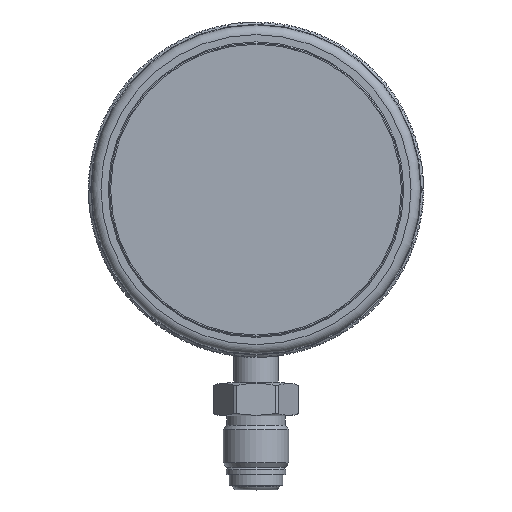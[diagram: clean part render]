
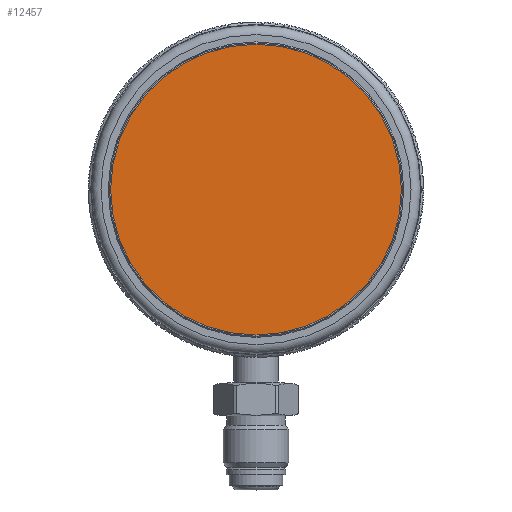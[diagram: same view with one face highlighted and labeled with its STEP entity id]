
A CAD part, top view. The second image highlights one B-rep face of the part: STEP entity #12457.
In plain terms, the highlighted planar face has unit normal (0, 0, 1) as drawn and (-1, 0, 0) by its records, which use the part's own axes.
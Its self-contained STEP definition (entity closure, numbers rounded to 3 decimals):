
#639=PLANE('',#13450);
#4090=FACE_OUTER_BOUND('',#4725,.T.);
#4725=EDGE_LOOP('',(#11702));
#5073=CIRCLE('',#13451,30.999);
#6286=VERTEX_POINT('',#20649);
#8099=EDGE_CURVE('',#6286,#6286,#5073,.T.);
#11702=ORIENTED_EDGE('',*,*,#8099,.F.);
#12457=ADVANCED_FACE('',(#4090),#639,.T.);
#13450=AXIS2_PLACEMENT_3D('',#20648,#16646,#16647);
#13451=AXIS2_PLACEMENT_3D('',#20650,#16648,#16649);
#16646=DIRECTION('center_axis',(-1.,0.,0.));
#16647=DIRECTION('ref_axis',(0.,0.,1.));
#16648=DIRECTION('center_axis',(1.,0.,0.));
#16649=DIRECTION('ref_axis',(0.,1.,0.));
#20648=CARTESIAN_POINT('Origin',(167.935,124.308,0.));
#20649=CARTESIAN_POINT('',(167.935,77.809,0.));
#20650=CARTESIAN_POINT('Origin',(167.935,108.808,0.));
